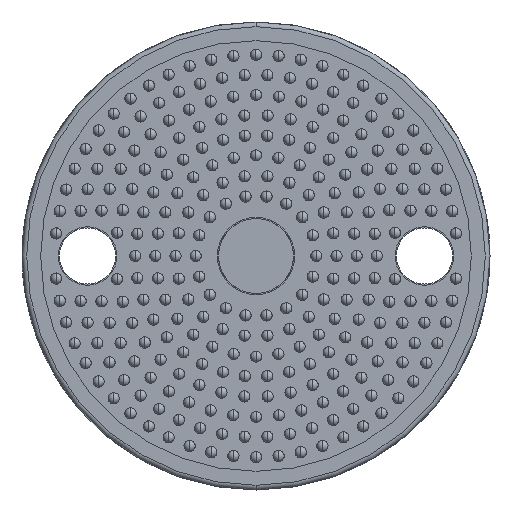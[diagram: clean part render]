
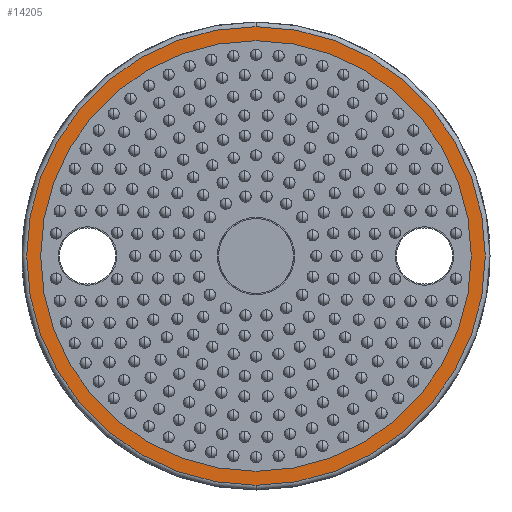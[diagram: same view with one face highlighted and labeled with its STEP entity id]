
A CAD part, front view. The second image highlights one B-rep face of the part: STEP entity #14205.
In plain terms, the highlighted planar face has unit normal (0, -1, 0).
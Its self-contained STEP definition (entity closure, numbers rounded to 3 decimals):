
#124 = DIRECTION ( 'NONE',  ( 0., -1., 0. ) ) ;
#608 = DIRECTION ( 'NONE',  ( 0., -1., 0. ) ) ;
#729 = DIRECTION ( 'NONE',  ( 0., 0., -1. ) ) ;
#2654 = ORIENTED_EDGE ( 'NONE', *, *, #31349, .T. ) ;
#5375 = DIRECTION ( 'NONE',  ( 0., 0., -1. ) ) ;
#5661 = DIRECTION ( 'NONE',  ( 0., -1., 0. ) ) ;
#6821 = AXIS2_PLACEMENT_3D ( 'NONE', #36239, #608, #729 ) ;
#7371 = DIRECTION ( 'NONE',  ( 0., 0., -1. ) ) ;
#8179 = CARTESIAN_POINT ( 'NONE',  ( 0., 0., 0. ) ) ;
#8254 = CIRCLE ( 'NONE', #8869, 49. ) ;
#8483 = FACE_OUTER_BOUND ( 'NONE', #24757, .T. ) ;
#8808 = EDGE_CURVE ( 'NONE', #29038, #27531, #8254, .T. ) ;
#8869 = AXIS2_PLACEMENT_3D ( 'NONE', #26223, #10454, #7371 ) ;
#9907 = ORIENTED_EDGE ( 'NONE', *, *, #39968, .F. ) ;
#9946 = CARTESIAN_POINT ( 'NONE',  ( 0., 0., 0. ) ) ;
#10269 = CARTESIAN_POINT ( 'NONE',  ( 0., 0., -46. ) ) ;
#10454 = DIRECTION ( 'NONE',  ( 0., -1., 0. ) ) ;
#10863 = DIRECTION ( 'NONE',  ( 0., -1., 0. ) ) ;
#14205 = ADVANCED_FACE ( 'NONE', ( #8483, #31490 ), #14861, .T. ) ;
#14595 = DIRECTION ( 'NONE',  ( 0., 0., -1. ) ) ;
#14861 = PLANE ( 'NONE',  #34527 ) ;
#17947 = CARTESIAN_POINT ( 'NONE',  ( -44.5, 0., 0. ) ) ;
#18566 = VERTEX_POINT ( 'NONE', #10269 ) ;
#19787 = EDGE_LOOP ( 'NONE', ( #24978, #9907 ) ) ;
#22063 = CIRCLE ( 'NONE', #6821, 46. ) ;
#24604 = CIRCLE ( 'NONE', #30571, 46. ) ;
#24757 = EDGE_LOOP ( 'NONE', ( #32449, #2654 ) ) ;
#24978 = ORIENTED_EDGE ( 'NONE', *, *, #37770, .F. ) ;
#26223 = CARTESIAN_POINT ( 'NONE',  ( 0., 0., 0. ) ) ;
#26428 = CARTESIAN_POINT ( 'NONE',  ( 0., 0., 46. ) ) ;
#27531 = VERTEX_POINT ( 'NONE', #29629 ) ;
#28197 = CARTESIAN_POINT ( 'NONE',  ( 0., 0., -49. ) ) ;
#28807 = DIRECTION ( 'NONE',  ( 0., 0., -1. ) ) ;
#29038 = VERTEX_POINT ( 'NONE', #28197 ) ;
#29629 = CARTESIAN_POINT ( 'NONE',  ( 0., 0., 49. ) ) ;
#30471 = VERTEX_POINT ( 'NONE', #26428 ) ;
#30571 = AXIS2_PLACEMENT_3D ( 'NONE', #9946, #124, #28807 ) ;
#31349 = EDGE_CURVE ( 'NONE', #27531, #29038, #31706, .T. ) ;
#31490 = FACE_BOUND ( 'NONE', #19787, .T. ) ;
#31706 = CIRCLE ( 'NONE', #38603, 49. ) ;
#32449 = ORIENTED_EDGE ( 'NONE', *, *, #8808, .T. ) ;
#34527 = AXIS2_PLACEMENT_3D ( 'NONE', #17947, #5661, #5375 ) ;
#36239 = CARTESIAN_POINT ( 'NONE',  ( 0., 0., 0. ) ) ;
#37770 = EDGE_CURVE ( 'NONE', #30471, #18566, #24604, .T. ) ;
#38603 = AXIS2_PLACEMENT_3D ( 'NONE', #8179, #10863, #14595 ) ;
#39968 = EDGE_CURVE ( 'NONE', #18566, #30471, #22063, .T. ) ;
